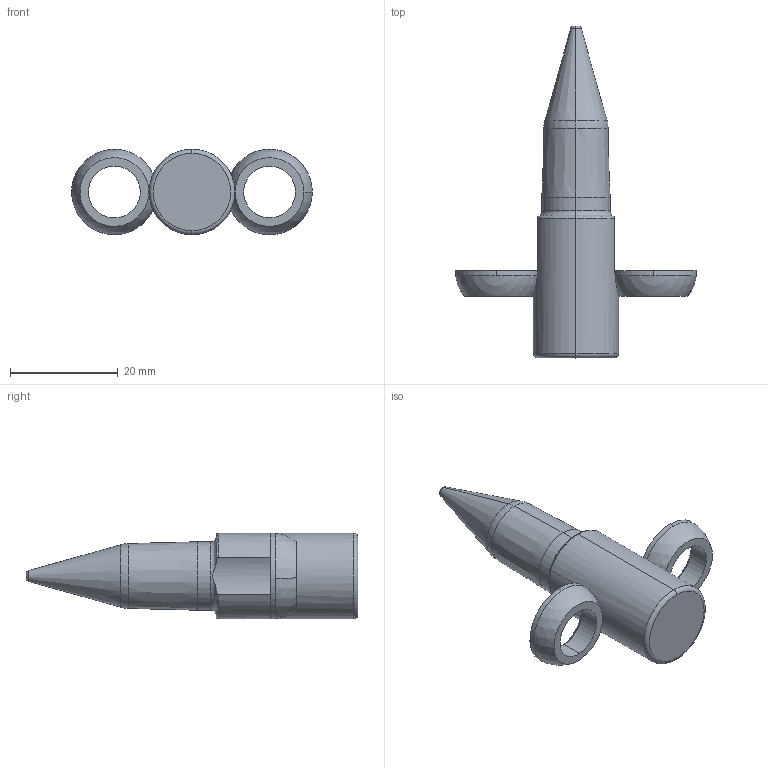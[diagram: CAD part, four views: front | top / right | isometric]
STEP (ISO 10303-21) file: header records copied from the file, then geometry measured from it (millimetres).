
FILE_DESCRIPTION (( 'STEP AP214' ), '1' );
FILE_NAME ('PA-T-.500-.100-0.5-3-A-F2.STEP', '2019-05-08T17:36:34', ( '' ), ( '' ), 'SwSTEP 2.0', 'SolidWorks 2017', '' );
FILE_SCHEMA (( 'AUTOMOTIVE_DESIGN' ));
Length unit declared in the file: inch
Products named in the file (3): SLPilot-PA-T-E_PA-T-.500-.100-0.5-3-A-F2; PA-T-.500-.100-0.5-3-A-F2; SLRadiusWasher_RadiusWasher-E
Assembly tree (3 placements, depth 2):
  PA-T-.500-.100-0.5-3-A-F2
    SLPilot-PA-T-E_PA-T-.500-.100-0.5-3-A-F2
    SLRadiusWasher_RadiusWasher-E  x2
Bounding box: 44.67 x 61.59 x 15.88 mm (x, y, z)
Volume: 8852.8 mm3; surface area: 3707.8 mm2
Topology: 3 solids, 3 shells, 49 faces, 112 edges, 69 vertices
Faces by surface type: cylinder 14, torus 11, plane 8, sphere 8, cone 8
Entity records: 1384 total; most frequent: CARTESIAN_POINT 332, DIRECTION 232, ORIENTED_EDGE 180, AXIS2_PLACEMENT_3D 107, EDGE_CURVE 90, CIRCLE 62, VERTEX_POINT 55, EDGE_LOOP 41
